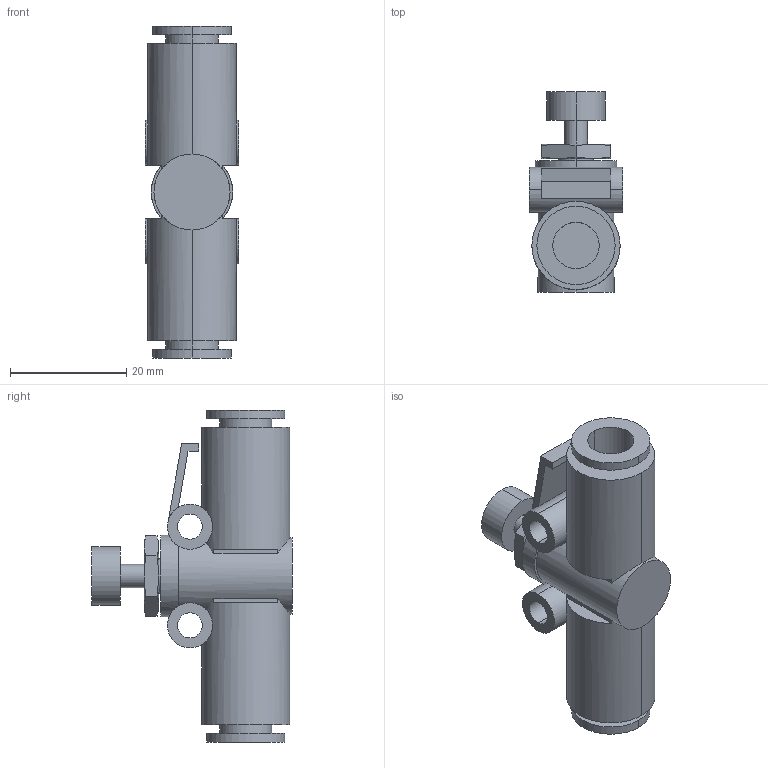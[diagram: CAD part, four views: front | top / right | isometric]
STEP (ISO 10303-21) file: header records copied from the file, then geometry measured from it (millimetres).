
FILE_DESCRIPTION( ( '' ), '1' );
FILE_NAME( 'G:/SMC狟婥/AS2052F-08.stp', '2023-03-07T03:59:48', ( '' ), ( '' ), ' ', ' ', ' ' );
FILE_SCHEMA( ( 'CONFIG_CONTROL_DESIGN' ) );
Length unit declared in the file: millimetre
Products named in the file (1): 1
Bounding box: 16.1 x 34.5 x 57.2 mm (x, y, z)
Volume: 10996.8 mm3; surface area: 6641.8 mm2
Topology: 1 solids, 1 shells, 79 faces, 192 edges, 126 vertices
Faces by surface type: plane 41, cylinder 34, cone 4
Entity records: 3024 total; most frequent: CARTESIAN_POINT 1122, DIRECTION 390, ORIENTED_EDGE 384, EDGE_CURVE 192, AXIS2_PLACEMENT_3D 154, VERTEX_POINT 126, EDGE_LOOP 94, LINE 82
